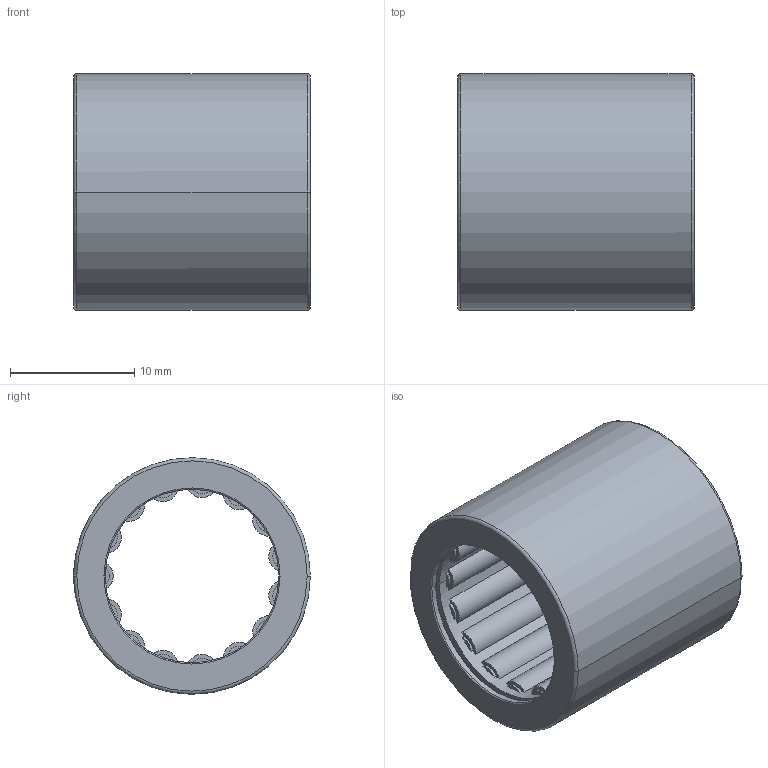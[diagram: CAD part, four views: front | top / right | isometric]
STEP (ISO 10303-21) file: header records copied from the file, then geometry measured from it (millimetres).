
FILE_DESCRIPTION((''),'2;1');
FILE_NAME('GRAINGER-35TX72','2018-12-21T',('SYSTEM'),(''),'PRO/ENGINEER BY PARAMETRIC TECHNOLOGY CORPORATION, 2016360','PRO/ENGINEER BY PARAMETRIC TECHNOLOGY CORPORATION, 2016360','');
FILE_SCHEMA(('AUTOMOTIVE_DESIGN { 1 0 10303 214 1 1 1 1 }'));
Length unit declared in the file: inch
Products named in the file (1): GRAINGER-35TX72
Bounding box: 19.05 x 19.05 x 19.05 mm (x, y, z)
Volume: 2318.1 mm3; surface area: 4639.7 mm2
Topology: 2 solids, 2 shells, 250 faces, 658 edges, 440 vertices
Faces by surface type: plane 126, cylinder 104, torus 18, cone 2
Entity records: 9887 total; most frequent: DIRECTION 1608, CARTESIAN_POINT 1400, ORIENTED_EDGE 1316, AXIS2_PLACEMENT_3D 704, EDGE_CURVE 658, CIRCLE 454, VERTEX_POINT 440, EDGE_LOOP 284
